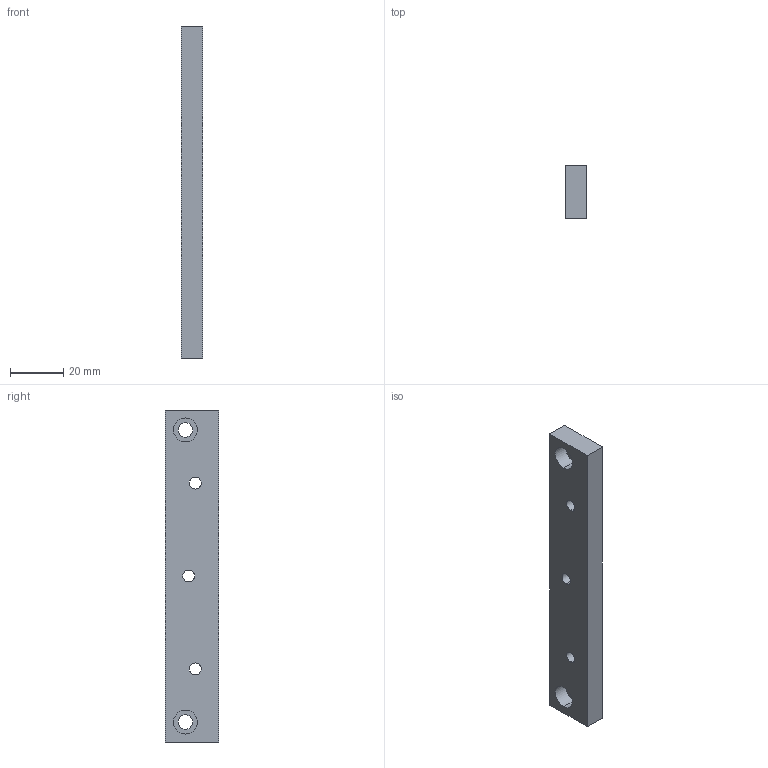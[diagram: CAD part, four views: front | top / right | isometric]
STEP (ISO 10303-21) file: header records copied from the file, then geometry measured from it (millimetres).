
FILE_DESCRIPTION (( 'STEP AP203' ), '1' );
FILE_NAME ('013.100.041.STEP', '2021-11-12T14:34:06', ( '' ), ( '' ), 'SwSTEP 2.0', 'SolidWorks 2018', '' );
FILE_SCHEMA (( 'CONFIG_CONTROL_DESIGN' ));
Length unit declared in the file: millimetre
Products named in the file (1): 013.100.041
Bounding box: 8 x 20 x 125 mm (x, y, z)
Volume: 18435 mm3; surface area: 7987.8 mm2
Topology: 1 solids, 1 shells, 31 faces, 72 edges, 48 vertices
Faces by surface type: cylinder 20, plane 11
Entity records: 1003 total; most frequent: DIRECTION 176, CARTESIAN_POINT 152, ORIENTED_EDGE 144, EDGE_CURVE 72, AXIS2_PLACEMENT_3D 72, VERTEX_POINT 48, EDGE_LOOP 46, CIRCLE 40
